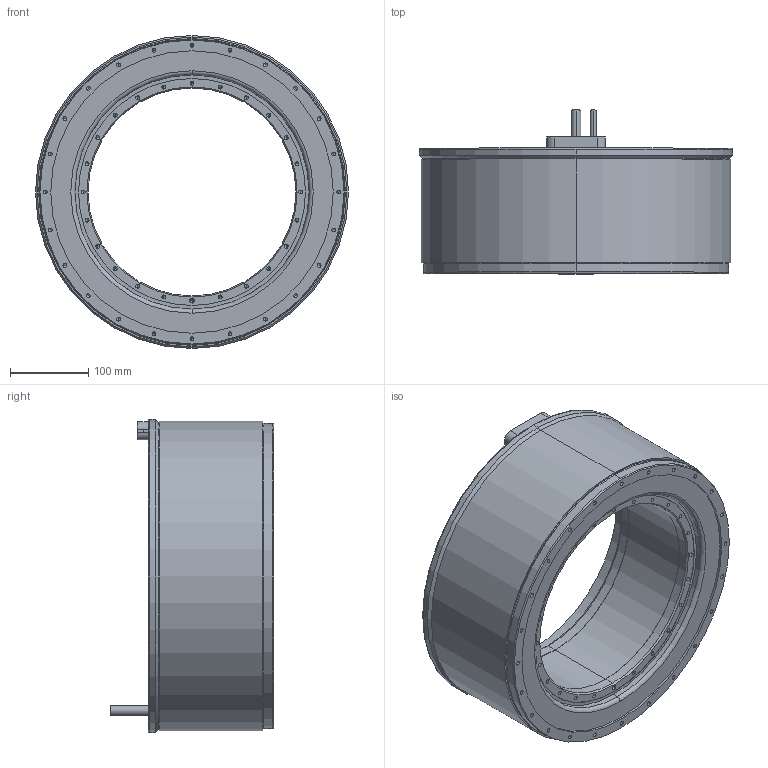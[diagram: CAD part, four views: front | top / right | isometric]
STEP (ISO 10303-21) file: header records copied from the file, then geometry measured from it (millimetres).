
FILE_DESCRIPTION (( 'STEP AP203' ), '1' );
FILE_NAME ('TM-2-AC-PB0(J0).STEP', '2023-06-06T02:24:25', ( '' ), ( '' ), 'SwSTEP 2.0', 'SolidWorks 2015', '' );
FILE_SCHEMA (( 'CONFIG_CONTROL_DESIGN' ));
Length unit declared in the file: millimetre
Products named in the file (3): TM-2-AC-PB0(J0); TM-2-AC-PB0(J0)_Stator; TM-2-AC(J0)_Rotor
Assembly tree (2 placements, depth 2):
  TM-2-AC-PB0(J0)
    TM-2-AC-PB0(J0)_Stator
    TM-2-AC(J0)_Rotor
Bounding box: 399 x 209 x 399 mm (x, y, z)
Volume: 9958030.6 mm3; surface area: 731144.1 mm2
Topology: 2 solids, 2 shells, 523 faces, 1266 edges, 670 vertices
Faces by surface type: cylinder 248, cone 216, plane 51, torus 8
Entity records: 14111 total; most frequent: DIRECTION 2660, CARTESIAN_POINT 2268, ORIENTED_EDGE 2140, EDGE_CURVE 1070, AXIS2_PLACEMENT_3D 1062, VERTEX_POINT 670, EDGE_LOOP 646, LINE 536
